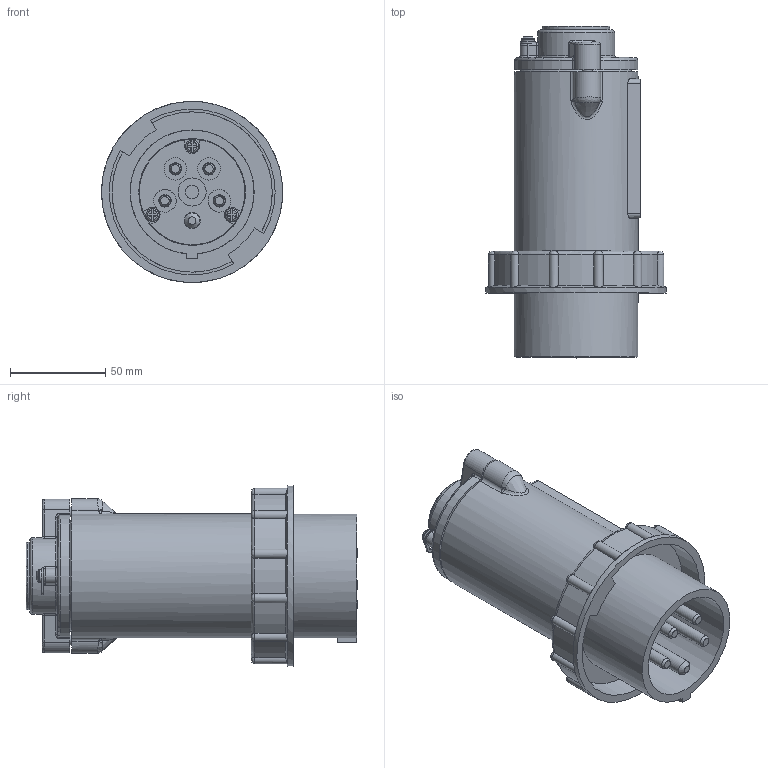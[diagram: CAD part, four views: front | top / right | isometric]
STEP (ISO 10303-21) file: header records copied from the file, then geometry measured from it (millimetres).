
FILE_DESCRIPTION((''),'2;1');
FILE_NAME('C:\Users\L.A.Ronzhin\Desktop\Новая папка (3)\ТЗ 40076\Разъемы,вилки\ВГМ-16-415-4.stp','2019-04-11T15:02:46',('L.A.Ronzhin'),(''),'Autodesk Inventor 2012','Autodesk Inventor 2012','');
FILE_SCHEMA(('CONFIG_CONTROL_DESIGN'));
Length unit declared in the file: millimetre
Products named in the file (1): ВГМ-16-415-4
Bounding box: 94.85 x 174 x 94.91 mm (x, y, z)
Surface area: 165070.9 mm2 (no closed solid volume)
Topology: 0 solids, 37 shells, 1187 faces, 2950 edges, 1902 vertices
Faces by surface type: plane 609, cylinder 265, bspline 154, cone 86, torus 67, sphere 6
Full cylindrical faces by diameter (mm): 1.5 x4, 2.487 x12, 3 x1, 3.242 x9, 3.5 x1, 3.9 x1, 4 x14, 4.134 x4, 4.5 x4, 4.8 x1, 5 x2, 6 x11, 6.5 x6, 6.7 x1, 6.85 x8, 7 x1, 7.5 x6, 8 x2, 8.5 x3, 9.5 x2, 10 x5, 11 x5, 11.8 x4, 14.7 x1, 26.5 x1, 28.575 x1, 30 x1, 35.5 x1, 39.5 x1, 40.3 x1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
Entity records: 39045 total; most frequent: CARTESIAN_POINT 11532, ORIENTED_EDGE 5244, DIRECTION 5098, EDGE_CURVE 2622, AXIS2_PLACEMENT_3D 1864, VERTEX_POINT 1804, EDGE_LOOP 1538, VECTOR 1370
